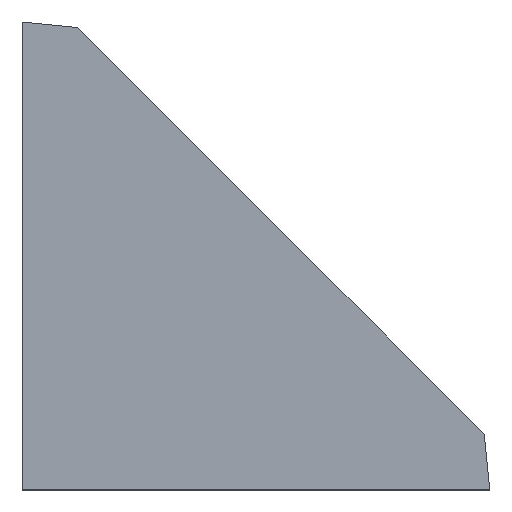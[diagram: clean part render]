
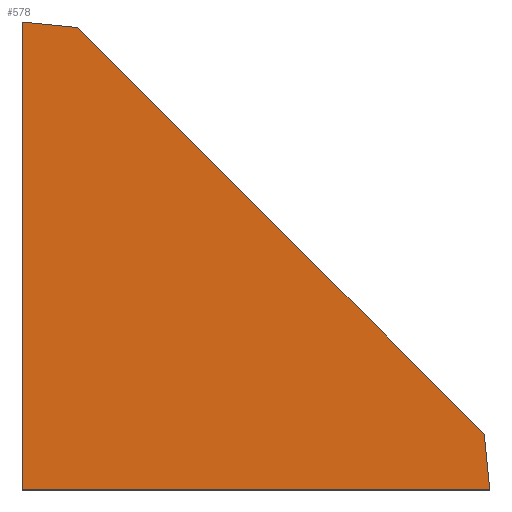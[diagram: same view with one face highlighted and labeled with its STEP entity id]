
A CAD part, top view. The second image highlights one B-rep face of the part: STEP entity #578.
In plain terms, the highlighted planar face has unit normal (0, 0, 1).
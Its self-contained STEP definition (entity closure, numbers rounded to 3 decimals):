
#18 = VERTEX_POINT ( 'NONE', #280 ) ;
#21 = DIRECTION ( 'NONE',  ( 1., 0., 0. ) ) ;
#24 = EDGE_CURVE ( 'NONE', #133, #471, #400, .T. ) ;
#31 = FACE_OUTER_BOUND ( 'NONE', #475, .T. ) ;
#45 = CARTESIAN_POINT ( 'NONE',  ( 42., 0., 12.5 ) ) ;
#80 = DIRECTION ( 'NONE',  ( -1., 0., 0. ) ) ;
#109 = ORIENTED_EDGE ( 'NONE', *, *, #256, .T. ) ;
#133 = VERTEX_POINT ( 'NONE', #380 ) ;
#149 = DIRECTION ( 'NONE',  ( -0.707, 0.707, 0. ) ) ;
#158 = VERTEX_POINT ( 'NONE', #262 ) ;
#169 = EDGE_CURVE ( 'NONE', #158, #410, #301, .T. ) ;
#175 = ORIENTED_EDGE ( 'NONE', *, *, #169, .T. ) ;
#194 = CARTESIAN_POINT ( 'NONE',  ( 0., 42., 12.5 ) ) ;
#213 = EDGE_CURVE ( 'NONE', #18, #133, #408, .T. ) ;
#220 = PLANE ( 'NONE',  #263 ) ;
#241 = ORIENTED_EDGE ( 'NONE', *, *, #24, .T. ) ;
#242 = CARTESIAN_POINT ( 'NONE',  ( 41.5, 4.975, 12.5 ) ) ;
#253 = VECTOR ( 'NONE', #422, 1000. ) ;
#254 = VECTOR ( 'NONE', #21, 1000. ) ;
#256 = EDGE_CURVE ( 'NONE', #410, #18, #283, .T. ) ;
#258 = CARTESIAN_POINT ( 'NONE',  ( 42., 0., 12.5 ) ) ;
#262 = CARTESIAN_POINT ( 'NONE',  ( 0., 0., 12.5 ) ) ;
#263 = AXIS2_PLACEMENT_3D ( 'NONE', #348, #527, #80 ) ;
#280 = CARTESIAN_POINT ( 'NONE',  ( 41.5, 4.975, 12.5 ) ) ;
#283 = LINE ( 'NONE', #242, #479 ) ;
#292 = CARTESIAN_POINT ( 'NONE',  ( 0., 0., 12.5 ) ) ;
#301 = LINE ( 'NONE', #258, #254 ) ;
#348 = CARTESIAN_POINT ( 'NONE',  ( -0.488, 38., 12.5 ) ) ;
#355 = ORIENTED_EDGE ( 'NONE', *, *, #213, .T. ) ;
#380 = CARTESIAN_POINT ( 'NONE',  ( 4.975, 41.5, 12.5 ) ) ;
#386 = VECTOR ( 'NONE', #149, 1000. ) ;
#394 = DIRECTION ( 'NONE',  ( -0.995, 0.1, 0. ) ) ;
#400 = LINE ( 'NONE', #453, #434 ) ;
#408 = LINE ( 'NONE', #457, #386 ) ;
#410 = VERTEX_POINT ( 'NONE', #45 ) ;
#413 = DIRECTION ( 'NONE',  ( -0.1, 0.995, 0. ) ) ;
#422 = DIRECTION ( 'NONE',  ( 0., -1., 0. ) ) ;
#434 = VECTOR ( 'NONE', #394, 1000. ) ;
#450 = ORIENTED_EDGE ( 'NONE', *, *, #591, .T. ) ;
#453 = CARTESIAN_POINT ( 'NONE',  ( 0., 42., 12.5 ) ) ;
#457 = CARTESIAN_POINT ( 'NONE',  ( 4.975, 41.5, 12.5 ) ) ;
#471 = VERTEX_POINT ( 'NONE', #194 ) ;
#475 = EDGE_LOOP ( 'NONE', ( #175, #109, #355, #241, #450 ) ) ;
#479 = VECTOR ( 'NONE', #413, 1000. ) ;
#527 = DIRECTION ( 'NONE',  ( 0., 0., -1. ) ) ;
#553 = LINE ( 'NONE', #292, #253 ) ;
#578 = ADVANCED_FACE ( 'NONE', ( #31 ), #220, .F. ) ;
#591 = EDGE_CURVE ( 'NONE', #471, #158, #553, .T. ) ;
